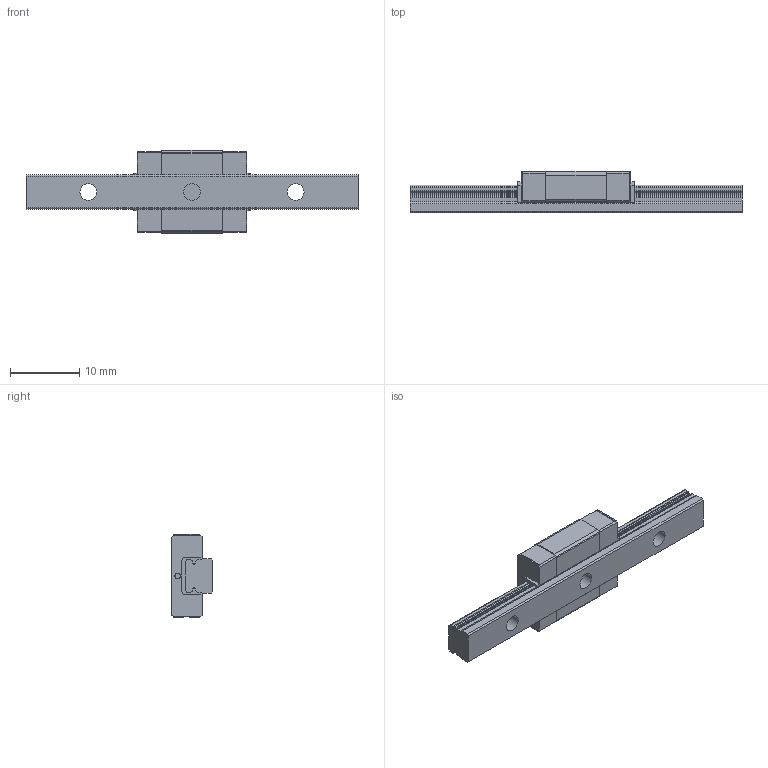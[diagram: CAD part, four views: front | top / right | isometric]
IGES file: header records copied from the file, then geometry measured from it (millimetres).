
Start section: Data from Parasolid IGES Translator 26.0.171, Copyright(c) 2006 Siemens PLM Software. All Rights Reserved.
Global section: file name: RSX5MUU-48LM_G9_0_Without grease nipple_15-55_0_0_0_1.igs; native system: By Siemens PLM Incorporated; preprocessor: XPlus GENERIC/IGES 26.0.171; author: Noname; organization: Noname; date: 20240521.102500; units: millimetre
Bounding box: 48 x 6 x 12 mm (x, y, z)
Surface area: 1755.1 mm2 (no closed solid volume)
Topology: 0 solids, 0 shells, 175 faces, 970 edges, 952 vertices
Faces by surface type: extrusion 110, revolution 65
